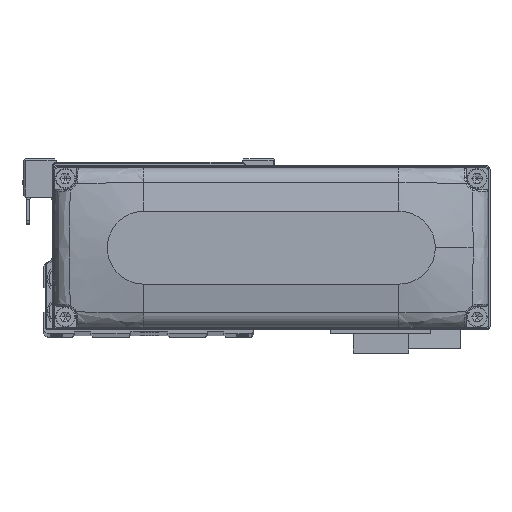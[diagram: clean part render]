
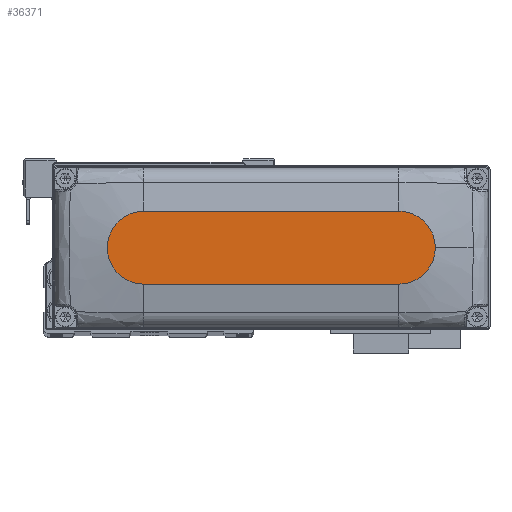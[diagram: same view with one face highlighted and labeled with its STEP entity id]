
A CAD part, top view. The second image highlights one B-rep face of the part: STEP entity #36371.
In plain terms, the highlighted planar face has unit normal (0, 0, 1).
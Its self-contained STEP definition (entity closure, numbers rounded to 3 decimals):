
#311 = PLANE ( 'NONE',  #1692 ) ;
#874 = CARTESIAN_POINT ( 'NONE',  ( -35., -10., 28. ) ) ;
#1657 = VERTEX_POINT ( 'NONE', #29000 ) ;
#1692 = AXIS2_PLACEMENT_3D ( 'NONE', #12313, #24354, #36369 ) ;
#2270 = DIRECTION ( 'NONE',  ( 0., 0., 1. ) ) ;
#3220 = DIRECTION ( 'NONE',  ( 0., 0., 1. ) ) ;
#3669 = EDGE_CURVE ( 'NONE', #4237, #35179, #38818, .T. ) ;
#4054 = ORIENTED_EDGE ( 'NONE', *, *, #31995, .T. ) ;
#4237 = VERTEX_POINT ( 'NONE', #4873 ) ;
#4783 = VECTOR ( 'NONE', #5548, 1000. ) ;
#4873 = CARTESIAN_POINT ( 'NONE',  ( -35., 10., 28. ) ) ;
#5548 = DIRECTION ( 'NONE',  ( -1., 0., 0. ) ) ;
#6030 = ORIENTED_EDGE ( 'NONE', *, *, #22331, .T. ) ;
#6744 = DIRECTION ( 'NONE',  ( 1., 0., 0. ) ) ;
#8810 = CARTESIAN_POINT ( 'NONE',  ( -35., -10., 28. ) ) ;
#9178 = CIRCLE ( 'NONE', #31222, 10. ) ;
#10314 = CARTESIAN_POINT ( 'NONE',  ( 35., 10., 28. ) ) ;
#11455 = EDGE_LOOP ( 'NONE', ( #23784, #16990, #6030, #32936, #4054 ) ) ;
#12313 = CARTESIAN_POINT ( 'NONE',  ( 0., 0., 28. ) ) ;
#13473 = EDGE_CURVE ( 'NONE', #23877, #1657, #9178, .T. ) ;
#14281 = DIRECTION ( 'NONE',  ( 1., 0., 0. ) ) ;
#15251 = DIRECTION ( 'NONE',  ( 1., 0., 0. ) ) ;
#16089 = CIRCLE ( 'NONE', #38148, 10. ) ;
#16990 = ORIENTED_EDGE ( 'NONE', *, *, #3669, .T. ) ;
#20543 = LINE ( 'NONE', #32558, #4783 ) ;
#20856 = DIRECTION ( 'NONE',  ( 1., 0., 0. ) ) ;
#21747 = CARTESIAN_POINT ( 'NONE',  ( 35., 0., 28. ) ) ;
#21817 = AXIS2_PLACEMENT_3D ( 'NONE', #30225, #3220, #15251 ) ;
#22331 = EDGE_CURVE ( 'NONE', #35179, #23877, #35823, .T. ) ;
#23784 = ORIENTED_EDGE ( 'NONE', *, *, #32300, .T. ) ;
#23877 = VERTEX_POINT ( 'NONE', #34415 ) ;
#24354 = DIRECTION ( 'NONE',  ( 0., 0., 1. ) ) ;
#27320 = FACE_OUTER_BOUND ( 'NONE', #11455, .T. ) ;
#29000 = CARTESIAN_POINT ( 'NONE',  ( 45., 0., 28. ) ) ;
#29285 = CARTESIAN_POINT ( 'NONE',  ( 35., 0., 28. ) ) ;
#30225 = CARTESIAN_POINT ( 'NONE',  ( -35., 0., 28. ) ) ;
#30335 = VERTEX_POINT ( 'NONE', #10314 ) ;
#31222 = AXIS2_PLACEMENT_3D ( 'NONE', #29285, #2270, #14281 ) ;
#31995 = EDGE_CURVE ( 'NONE', #1657, #30335, #16089, .T. ) ;
#32300 = EDGE_CURVE ( 'NONE', #30335, #4237, #20543, .T. ) ;
#32558 = CARTESIAN_POINT ( 'NONE',  ( -35., 10., 28. ) ) ;
#32936 = ORIENTED_EDGE ( 'NONE', *, *, #13473, .T. ) ;
#33765 = DIRECTION ( 'NONE',  ( 0., 0., 1. ) ) ;
#34241 = VECTOR ( 'NONE', #20856, 1000. ) ;
#34415 = CARTESIAN_POINT ( 'NONE',  ( 35., -10., 28. ) ) ;
#35179 = VERTEX_POINT ( 'NONE', #874 ) ;
#35823 = LINE ( 'NONE', #8810, #34241 ) ;
#36369 = DIRECTION ( 'NONE',  ( 1., 0., 0. ) ) ;
#36371 = ADVANCED_FACE ( 'NONE', ( #27320 ), #311, .T. ) ;
#38148 = AXIS2_PLACEMENT_3D ( 'NONE', #21747, #33765, #6744 ) ;
#38818 = CIRCLE ( 'NONE', #21817, 10. ) ;
